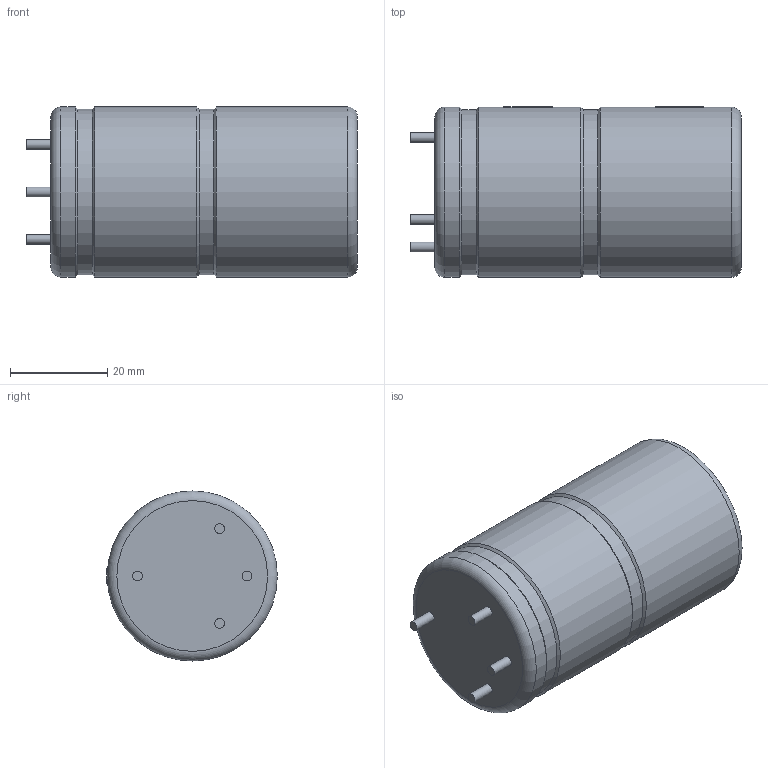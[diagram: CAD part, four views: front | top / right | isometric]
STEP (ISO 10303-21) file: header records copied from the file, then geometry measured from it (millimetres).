
FILE_DESCRIPTION(('FreeCAD Model'),'2;1');
FILE_NAME('Open CASCADE Shape Model','2022-04-16T10:16:35',( 'kicad StepUp'),('ksu MCAD'),'Open CASCADE STEP processor 7.5', 'FreeCAD','Unknown');
FILE_SCHEMA(('AUTOMOTIVE_DESIGN { 1 0 10303 214 1 1 1 1 }'));
Length unit declared in the file: millimetre
Products named in the file (1): Fillet
Bounding box: 68 x 35.1 x 35 mm (x, y, z)
Volume: 60118.4 mm3; surface area: 8977.8 mm2
Topology: 3 solids, 3 shells, 35 faces, 69 edges, 44 vertices
Faces by surface type: plane 20, cylinder 9, cone 4, torus 2
Full cylindrical faces by diameter (mm): 2 x4, 34 x2, 35 x3
Entity records: 1040 total; most frequent: DIRECTION 163, CARTESIAN_POINT 149, ORIENTED_EDGE 138, EDGE_CURVE 69, AXIS2_PLACEMENT_3D 58, LINE 47, VECTOR 47, VERTEX_POINT 44
